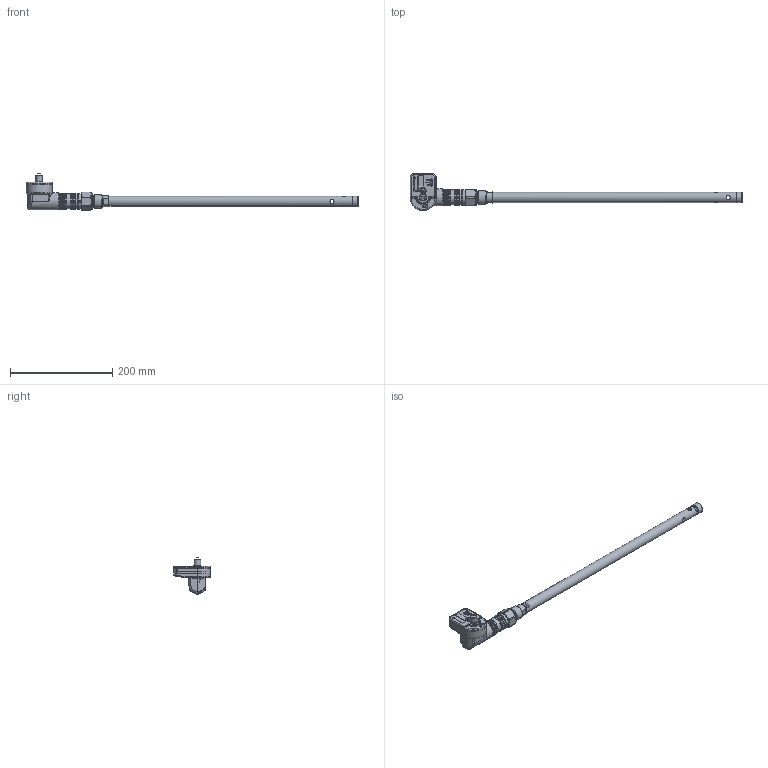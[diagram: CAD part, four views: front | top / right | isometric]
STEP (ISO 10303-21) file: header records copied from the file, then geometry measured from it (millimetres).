
FILE_DESCRIPTION(/* description */ (''),/* implementation_level */ '2;1');
FILE_NAME(/* name */ 'R:\Mekanisk design\HBLT-A3\5. STEP files\HBLT-A3-5-6.stp',/* time_stamp */ '2023-01-10T15:00:36+01:00',/* author */ ('ma'),/* organization */ (''),/* preprocessor_version */ 'ST-DEVELOPER v18.1',/* originating_system */ 'Autodesk Inventor 2021',/* authorisation */ '');
FILE_SCHEMA (('AUTOMOTIVE_DESIGN { 1 0 10303 214 3 1 1 }'));
Products named in the file (1): HBLT-A3-BSPP-Komp-R1_Shrinkwrap_1
Bounding box: 648.3 x 72 x 71.99 mm (x, y, z)
Volume: 112130.8 mm3; surface area: 127972.1 mm2
Topology: 11 solids, 11 shells, 1403 faces, 3519 edges, 2229 vertices
Faces by surface type: plane 724, cylinder 263, bspline 201, cone 164, torus 43, sphere 8
Full cylindrical faces by diameter (mm): 3 x3, 3.2 x1, 3.6 x3, 4 x12, 4.2 x1, 4.7 x1, 5 x2, 6.647 x1, 8 x4, 8.5 x1, 10 x4, 10.1 x1, 10.4 x1, 10.917 x1, 12 x1, 12.5 x2, 13 x1, 15.5 x1, 17.9 x2, 18 x3, 19 x2, 20 x5, 22 x1, 23.8 x1, 24 x4, 25 x1, 25.376 x1, 25.4 x1, 26 x2, 26.8 x1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
Entity records: 51692 total; most frequent: CARTESIAN_POINT 18663, ORIENTED_EDGE 7030, DIRECTION 5856, EDGE_CURVE 3515, VERTEX_POINT 2229, AXIS2_PLACEMENT_3D 2004, LINE 1848, VECTOR 1848
